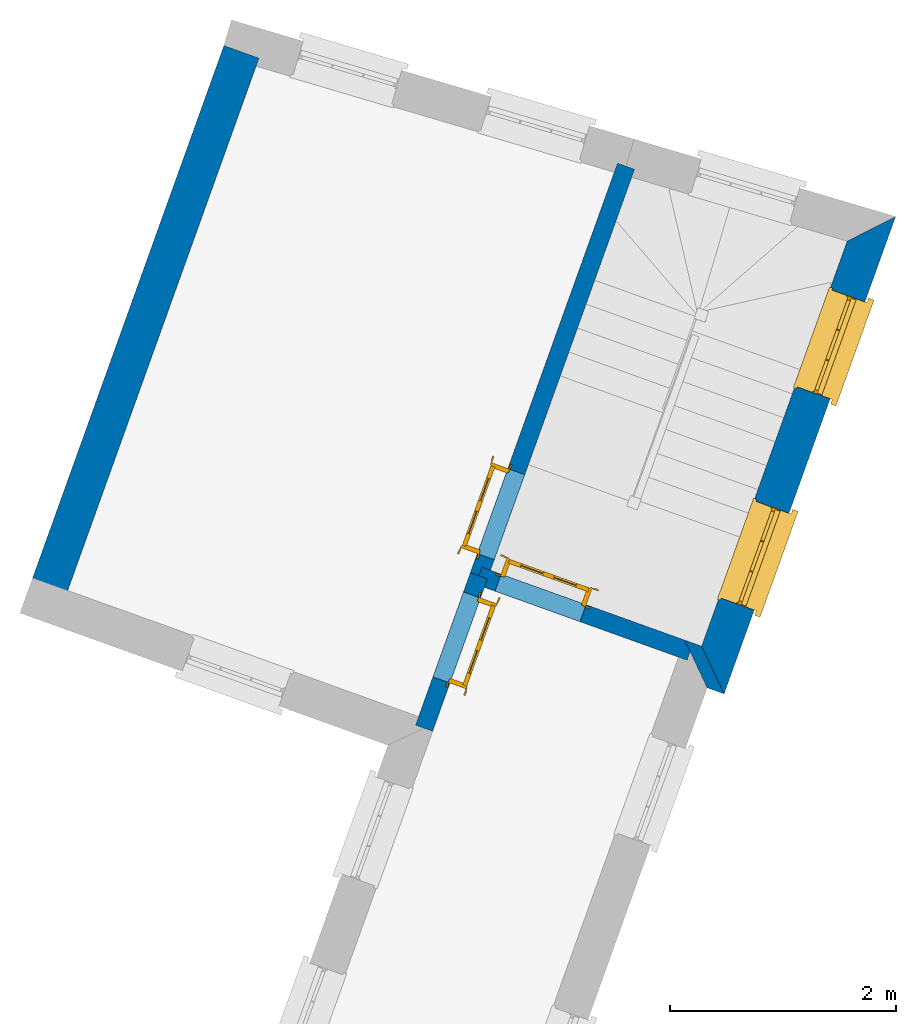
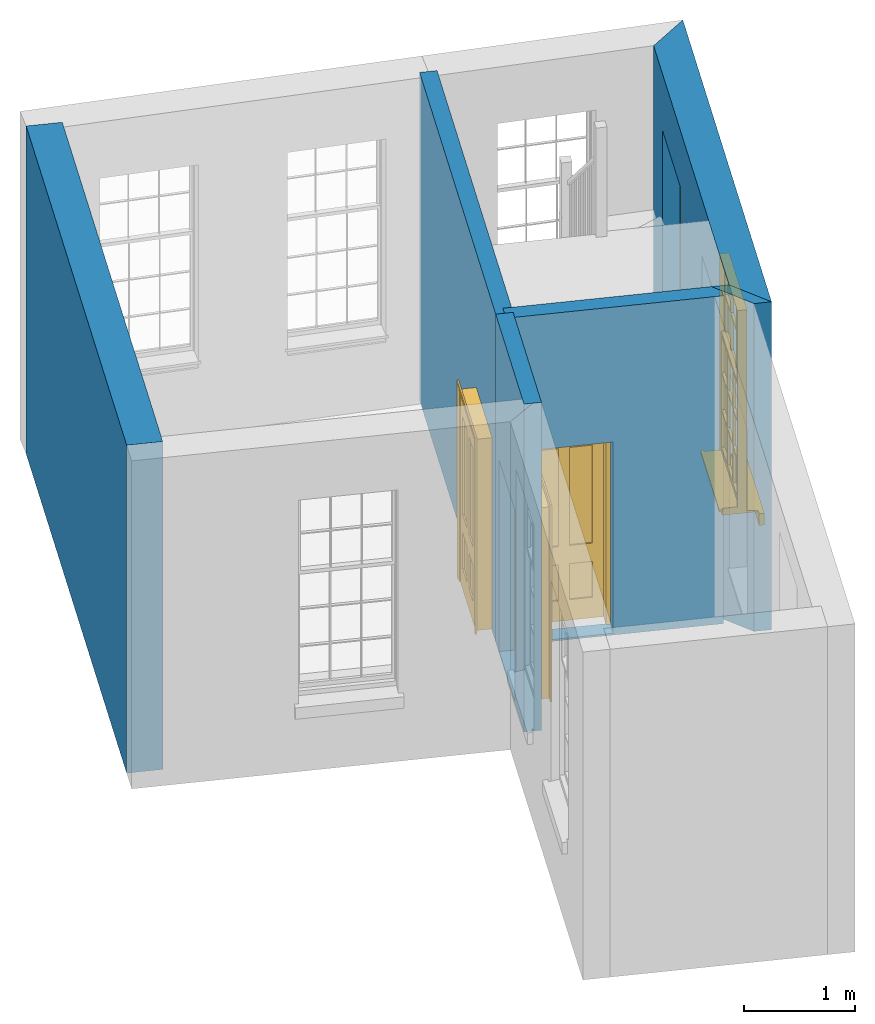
# One storey, part 2 of 3: 6 walls, 3 doors, 2 windows, 5 openings.
"""IFC4 building model written with IfcOpenShell, lengths in metres."""

from ifc_helpers import new_model, si_unit, frame, origin, origin_with_axes, place, context, subcontext, project, spatial, polyline, outline, extrude, faceted_brep, source, transform, mapped, material, layer, layer_set, layer_usage, type_object, type_shapes, element, fill, save


model = new_model("IFC4")

# Units and contexts
model_context = context("Model", 3, world=origin_with_axes())
body_context = subcontext(model_context, "Body", "Model", "MODEL_VIEW")
ifc_project = project(units=[si_unit("PLANEANGLEUNIT", "RADIAN"), si_unit("MASSUNIT", "GRAM", prefix="KILO"), si_unit("FORCEUNIT", "NEWTON", prefix="KILO"), si_unit("LENGTHUNIT", "METRE"), si_unit("AREAUNIT", "SQUARE_METRE"), si_unit("VOLUMEUNIT", "CUBIC_METRE")], contexts=[model_context, model_context])

# Sites, building, storey
site_1_placement = place(None, origin_with_axes())
site_1 = spatial("IfcSite", under=ifc_project, at=site_1_placement, Name="Tamar")
site_2_placement = place(site_1_placement, origin_with_axes())
site_2 = spatial("IfcSite", under=site_1, at=site_2_placement, Name="Site plot-23", CompositionType="ELEMENT")
building_placement = place(None, origin_with_axes())
building = spatial("IfcBuilding", under=site_2, at=building_placement, Name="Building plot-23", CompositionType="ELEMENT")
storey_placement = place(None, frame((0.0, 0.0, 29.6), z_axis=(0.0, 0.0, 1.0), x_axis=(1.0, 0.0, 0.0)))
storey = spatial("IfcBuildingStorey", under=building, at=storey_placement, Name="plot-23 1", CompositionType="ELEMENT", Elevation=29.6)

# Wall
ifc_material_1 = material(Name="Masonry")
ifc_layer_1 = layer(ifc_material_1, 0.33, ventilated=False)
ifc_layer_set_1 = layer_set([ifc_layer_1], Name="exterior_0.08_0.25")
ifc_layer_usage_1 = layer_usage(ifc_layer_set_1, "AXIS2", "POSITIVE", -0.25)
wall_type_1 = type_object("IfcWallType", Name="exterior_0.08_0.25", PredefinedType="SOLIDWALL", material=ifc_layer_set_1)
wall_1_placement = place(storey_placement, frame((266.177555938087, 277.829729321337, 0.0), z_axis=(0.0, 0.0, 1.0), x_axis=(0.941087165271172, -0.338164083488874, 0.0)))
element("IfcWall", 1, at=wall_1_placement, inside=storey, type_object=wall_type_1, material=ifc_layer_usage_1, Name="exterior", context=body_context, shape_type="SweptSolid", body=[
    extrude(outline(polyline([(-0.0800000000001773, 0.0799999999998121), (0.250000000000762, -0.250000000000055), (0.409135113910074, -0.250000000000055), (0.0791351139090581, 0.080000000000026), (-0.0800000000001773, 0.0799999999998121)])), origin_with_axes(), (0.0, 0.0, 1.0), 3.6),
])

# Wall, openings, windows
wall_2_placement = place(storey_placement, frame((266.327315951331, 277.775915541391, 0.0), z_axis=(0.0, 0.0, 1.0), x_axis=(0.338164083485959, 0.941087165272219, 0.0)))
wall_2 = element("IfcWall", 2, at=wall_2_placement, inside=storey, type_object=wall_type_1, material=ifc_layer_usage_1, Name="exterior", context=body_context, shape_type="SweptSolid", body=[
    extrude(outline(polyline([(0.0800000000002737, 0.0800000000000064), (-0.250000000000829, -0.249999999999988), (4.23925398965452, -0.249999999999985), (3.88979325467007, 0.0800000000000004), (0.0800000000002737, 0.0800000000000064)])), origin_with_axes(), (0.0, 0.0, 1.0), 3.6),
])
opening_1_placement = place(wall_2_placement, frame((0.538627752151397, 0.0, 0.75)))
opening_1 = element("IfcOpeningElement", 3, at=opening_1_placement, cuts=wall_2, Name="My Opening", ObjectType="Opening", context=body_context, shape_type="SweptSolid", body=[
    extrude(outline(polyline([(0.0, -0.270000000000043), (0.910000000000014, -0.270000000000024), (0.909999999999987, 1.09999999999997), (-2.67563748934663e-14, 1.09999999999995), (0.0, -0.270000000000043)])), origin_with_axes(), (0.0, 0.0, 1.0), 2.23),
])
opening_2_placement = place(wall_2_placement, frame((2.52588325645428, 0.0, 0.75)))
opening_2 = element("IfcOpeningElement", 4, at=opening_2_placement, cuts=wall_2, Name="My Opening", ObjectType="Opening", context=body_context, shape_type="SweptSolid", body=[
    extrude(outline(polyline([(0.0, -0.270000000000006), (0.910000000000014, -0.269999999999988), (0.909999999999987, 1.10000000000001), (-2.66453525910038e-14, 1.09999999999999), (0.0, -0.270000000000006)])), origin_with_axes(), (0.0, 0.0, 1.0), 2.23),
])
window_type = type_object("IfcWindowType", Name="sash_big_taller", PartitioningType="DOUBLE_PANEL_HORIZONTAL", PredefinedType="NOTDEFINED")
shared_shape_1 = source(origin(), body_context, "Body", "Brep", [
    faceted_brep([(0.033125, 0.145, 1.385209), (0.01, 0.145, 1.385209), (0.033125, 0.145, 1.786042), (0.876875, 0.145, 1.385209), (0.876875, 0.145, 1.786042), (0.9, 0.145, 1.385209), (0.876875, 0.145, 1.796042), (0.876875, 0.145, 2.196875), (0.9, 0.145, 2.22), (0.033125, 0.145, 2.196875), (0.033125, 0.145, 1.796042), (0.01, 0.145, 2.22), (0.876875, 0.115, 1.786042), (0.876875, 0.115, 1.385209), (0.9, 0.115, 1.347084), (0.033125, 0.115, 2.196875), (0.01, 0.115, 2.22), (0.033125, 0.115, 1.796042), (0.01, 0.115, 1.347084), (0.033125, 0.115, 1.385209), (0.033125, 0.115, 1.786042), (0.876875, 0.115, 2.196875), (0.876875, 0.115, 1.796042), (0.9, 0.115, 2.22), (0.033125, 0.145, 1.347084), (0.01, 0.145, 1.347084), (0.033125, 0.145, 0.94625), (0.876875, 0.145, 1.347084), (0.876875, 0.145, 0.94625), (0.9, 0.145, 1.347084), (0.876875, 0.145, 0.52625), (0.876875, 0.145, 0.125417), (0.9, 0.145, 0.077167), (0.033125, 0.145, 0.125417), (0.033125, 0.145, 0.52625), (0.01, 0.145, 0.077167), (-0.0425, 0.0, 0.01), (-0.0425, -0.05, 0.001667), (0.0, 0.0, 0.01), (0.9525, 0.0, 0.01), (0.91, 0.0, 0.01), (0.9525, -0.05, 0.001667), (-0.02, 0.33, 0.077167), (0.0, 0.33, 0.077167), (-0.02, 0.36, 0.077167), (0.0, 0.19, 0.077167), (0.01, 0.19, 0.077167), (0.91, 0.19, 0.077167), (0.91, 0.33, 0.077167), (0.9, 0.19, 0.077167), (0.93, 0.33, 0.077167), (0.93, 0.36, 0.077167), (0.01, 0.175, 1.385209), (0.9, 0.175, 1.385209), (0.876875, 0.175, 0.125417), (0.876875, 0.175, 0.52625), (0.9, 0.175, 0.077167), (0.876875, 0.175, 0.94625), (0.876875, 0.175, 1.347084), (0.033125, 0.175, 0.125417), (0.01, 0.175, 0.077167), (0.033125, 0.175, 0.52625), (0.033125, 0.175, 1.347084), (0.033125, 0.175, 0.94625), (-0.02, 0.33, 0.052167), (-0.02, 0.36, 0.052167), (0.93, 0.36, 0.052167), (0.93, 0.33, 0.052167), (0.91, 0.33, 0.052167), (0.0, 0.33, 0.052167), (0.91, 0.1, 0.026667), (0.0, 0.1, 0.026667), (-0.0425, -0.05, -0.123333), (0.9525, -0.05, -0.123333), (-0.0425, 0.0, -0.123333), (0.9525, 0.0, -0.123333), (0.01, 0.19, 2.22), (0.9, 0.19, 2.22), (0.0, 0.19, 2.23), (0.91, 0.19, 2.23), (0.01, 0.1, 0.077167), (0.9, 0.1, 0.077167), (0.592292, 0.145, 0.125417), (0.592292, 0.175, 0.125417), (0.317708, 0.175, 0.125417), (0.317708, 0.145, 0.125417), (0.592292, 0.145, 0.53625), (0.317708, 0.145, 0.53625), (0.317708, 0.145, 0.52625), (0.592292, 0.145, 0.52625), (0.592292, 0.175, 0.53625), (0.317708, 0.175, 0.53625), (0.592292, 0.115, 1.796042), (0.592292, 0.145, 1.796042), (0.317708, 0.145, 1.796042), (0.317708, 0.115, 1.796042), (0.317708, 0.115, 1.786042), (0.592292, 0.115, 1.786042), (0.317708, 0.145, 1.786042), (0.592292, 0.145, 1.786042), (0.602292, 0.115, 1.786042), (0.592292, 0.115, 1.385209), (0.602292, 0.115, 1.385209), (0.602292, 0.145, 1.385209), (0.592292, 0.145, 1.385209), (0.602292, 0.145, 1.786042), (0.876875, 0.145, 0.53625), (0.876875, 0.175, 0.53625), (0.602292, 0.175, 0.53625), (0.602292, 0.145, 0.53625), (0.317708, 0.175, 0.52625), (0.307708, 0.175, 0.125417), (0.307708, 0.175, 0.52625), (0.602292, 0.175, 0.52625), (0.602292, 0.175, 0.125417), (0.592292, 0.175, 0.52625), (0.307708, 0.175, 0.53625), (0.033125, 0.175, 0.53625), (0.317708, 0.175, 1.347084), (0.317708, 0.175, 0.94625), (0.307708, 0.175, 0.94625), (0.307708, 0.175, 1.347084), (0.602292, 0.175, 1.347084), (0.602292, 0.175, 0.94625), (0.592292, 0.175, 0.94625), (0.592292, 0.175, 1.347084), (0.307708, 0.145, 0.52625), (0.307708, 0.145, 0.125417), (0.307708, 0.145, 0.53625), (0.033125, 0.145, 0.53625), (0.307708, 0.145, 1.347084), (0.307708, 0.145, 0.94625), (0.592292, 0.145, 1.347084), (0.592292, 0.145, 0.94625), (0.317708, 0.145, 0.94625), (0.317708, 0.145, 1.347084), (0.602292, 0.145, 0.94625), (0.602292, 0.145, 1.347084), (0.602292, 0.145, 0.52625), (0.602292, 0.145, 0.125417), (0.307708, 0.115, 1.796042), (0.307708, 0.115, 1.786042), (0.307708, 0.115, 1.385209), (0.317708, 0.115, 1.385209), (0.317708, 0.115, 2.196875), (0.307708, 0.115, 2.196875), (0.602292, 0.115, 2.196875), (0.592292, 0.115, 2.196875), (0.602292, 0.115, 1.796042), (0.602292, 0.145, 1.796042), (0.307708, 0.145, 1.796042), (0.307708, 0.145, 2.196875), (0.317708, 0.145, 2.196875), (0.592292, 0.145, 2.196875), (0.602292, 0.145, 2.196875), (0.307708, 0.145, 1.786042), (0.317708, 0.145, 1.385209), (0.307708, 0.145, 1.385209), (0.876875, 0.175, 0.93625), (0.033125, 0.175, 0.93625), (0.033125, 0.145, 0.93625), (0.876875, 0.145, 0.93625), (0.91, 0.1, 2.23), (0.9, 0.1, 2.22), (0.01, 0.1, 2.22), (0.0, 0.1, 2.23), (0.91, 0.0, 0.0), (0.0, 0.0, 0.0), (0.91, 0.33, 0.0), (0.0, 0.33, 0.0), (0.317708, 0.145, 0.93625), (0.592292, 0.145, 0.93625), (0.317708, 0.175, 0.93625), (0.307708, 0.175, 0.93625), (0.602292, 0.175, 0.93625), (0.592292, 0.175, 0.93625), (0.307708, 0.145, 0.93625), (0.602292, 0.145, 0.93625)], [[[0, 1, 2]], [[3, 4, 5]], [[6, 7, 8]], [[9, 10, 11]], [[12, 13, 14]], [[15, 16, 17]], [[18, 19, 20]], [[21, 22, 23]], [[24, 25, 26]], [[27, 28, 29]], [[30, 31, 32]], [[33, 34, 35]], [[14, 27, 29]], [[25, 24, 18]], [[36, 37, 38]], [[39, 40, 41]], [[42, 43, 44]], [[45, 46, 43]], [[47, 48, 49]], [[50, 51, 48]], [[1, 0, 52]], [[5, 53, 3]], [[54, 55, 56]], [[57, 58, 53]], [[59, 60, 61]], [[62, 63, 52]], [[48, 43, 46, 49]], [[51, 44, 43, 48]], [[64, 42, 44, 65]], [[65, 44, 51, 66]], [[66, 51, 50, 67]], [[65, 66, 68, 69]], [[60, 56, 49, 46]], [[70, 71, 38, 40]], [[37, 41, 40, 38]], [[37, 72, 73, 41]], [[74, 75, 73, 72]], [[8, 11, 76, 77]], [[76, 78, 79, 77]], [[32, 35, 80, 81]], [[81, 80, 71, 70]], [[82, 83, 84, 85]], [[86, 87, 88, 89]], [[86, 90, 91, 87]], [[92, 93, 94, 95]], [[92, 95, 96, 97]], [[96, 98, 99, 97]], [[100, 97, 101, 102]], [[103, 104, 99, 105]], [[97, 99, 104, 101]], [[102, 103, 105, 100]], [[106, 107, 108, 109]], [[110, 84, 111, 112]], [[113, 114, 83, 115]], [[116, 112, 61, 117]], [[90, 115, 110, 91]], [[118, 119, 120, 121]], [[122, 123, 124, 125]], [[113, 108, 107, 55]], [[126, 112, 111, 127]], [[34, 61, 112, 126]], [[89, 115, 83, 82]], [[88, 110, 115, 89]], [[85, 84, 110, 88]], [[128, 116, 117, 129]], [[130, 121, 120, 131]], [[132, 125, 124, 133]], [[134, 119, 118, 135]], [[136, 123, 122, 137]], [[138, 113, 55, 30]], [[139, 114, 113, 138]], [[138, 30, 106, 109]], [[88, 126, 127, 85]], [[138, 89, 82, 139]], [[137, 132, 133, 136]], [[128, 129, 34, 126]], [[135, 130, 131, 134]], [[140, 17, 20, 141]], [[96, 141, 142, 143]], [[144, 145, 140, 95]], [[146, 147, 92, 148]], [[100, 12, 22, 148]], [[149, 6, 4, 105]], [[94, 150, 151, 152]], [[149, 93, 153, 154]], [[99, 98, 94, 93]], [[155, 2, 10, 150]], [[156, 157, 155, 98]], [[141, 155, 157, 142]], [[20, 2, 155, 141]], [[143, 156, 98, 96]], [[140, 150, 10, 17]], [[145, 151, 150, 140]], [[147, 153, 93, 92]], [[95, 94, 152, 144]], [[22, 6, 149, 148]], [[148, 149, 154, 146]], [[100, 105, 4, 12]], [[109, 86, 89, 138]], [[108, 113, 115, 90]], [[91, 110, 112, 116]], [[87, 128, 126, 88]], [[97, 100, 148, 92]], [[141, 96, 95, 140]], [[98, 155, 150, 94]], [[105, 99, 93, 149]], [[143, 101, 104, 156]], [[135, 118, 125, 132]], [[144, 152, 153, 147]], [[127, 111, 59, 33]], [[15, 9, 151, 145]], [[146, 154, 7, 21]], [[31, 54, 114, 139]], [[36, 74, 72, 37]], [[39, 41, 73, 75]], [[18, 14, 101, 143]], [[23, 16, 144, 147]], [[83, 56, 60, 84]], [[52, 53, 125, 118]], [[53, 52, 156, 104]], [[11, 8, 153, 152]], [[14, 18, 135, 132]], [[2, 1, 11, 10]], [[8, 5, 4, 6]], [[57, 53, 56, 158]], [[60, 52, 63, 159]], [[26, 25, 35, 160]], [[32, 29, 28, 161]], [[14, 23, 22, 12]], [[18, 20, 17, 16]], [[19, 0, 2, 20]], [[17, 10, 9, 15]], [[12, 4, 3, 13]], [[21, 7, 6, 22]], [[27, 58, 57, 28]], [[30, 55, 54, 31]], [[33, 59, 61, 34]], [[26, 63, 62, 24]], [[5, 8, 77, 53]], [[76, 11, 1, 52]], [[46, 45, 78, 76]], [[49, 77, 79, 47]], [[70, 162, 163, 81]], [[71, 80, 164, 165]], [[19, 142, 157, 0]], [[102, 13, 3, 103]], [[121, 130, 24, 62]], [[29, 32, 81, 14]], [[80, 35, 25, 18]], [[60, 46, 76, 52]], [[77, 49, 56, 53]], [[23, 14, 81, 163]], [[16, 164, 80, 18]], [[35, 85, 127]], [[127, 33, 35]], [[139, 82, 32]], [[32, 31, 139]], [[32, 82, 85, 35]], [[102, 101, 14]], [[14, 13, 102]], [[18, 143, 142]], [[142, 19, 18]], [[146, 21, 23]], [[23, 147, 146]], [[16, 15, 145]], [[145, 144, 16]], [[11, 152, 151]], [[151, 9, 11]], [[154, 153, 8]], [[8, 7, 154]], [[23, 163, 164, 16]], [[162, 165, 164, 163]], [[52, 118, 121]], [[121, 62, 52]], [[125, 53, 122]], [[58, 122, 53]], [[27, 137, 122, 58]], [[56, 83, 114]], [[114, 54, 56]], [[111, 84, 60]], [[60, 59, 111]], [[137, 27, 14]], [[14, 132, 137]], [[130, 135, 18]], [[18, 24, 130]], [[157, 156, 52]], [[52, 0, 157]], [[103, 3, 53]], [[53, 104, 103]], [[79, 78, 165, 162]], [[78, 45, 71, 165]], [[162, 70, 47, 79]], [[166, 75, 74, 167]], [[68, 66, 67]], [[48, 68, 67, 50]], [[69, 64, 65]], [[42, 64, 69, 43]], [[69, 68, 168, 169]], [[70, 68, 48, 47]], [[166, 168, 68, 70]], [[43, 69, 71, 45]], [[69, 169, 167, 71]], [[168, 166, 167, 169]], [[38, 167, 74, 36]], [[71, 167, 38]], [[39, 75, 166, 40]], [[40, 166, 70]], [[133, 134, 170, 171]], [[133, 124, 119, 134]], [[28, 57, 123, 136]], [[172, 91, 116, 173]], [[174, 108, 90, 175]], [[120, 173, 159, 63]], [[124, 175, 172, 119]], [[174, 123, 57, 158]], [[176, 173, 116, 128]], [[160, 159, 173, 176]], [[171, 175, 90, 86]], [[170, 172, 175, 171]], [[87, 91, 172, 170]], [[131, 120, 63, 26]], [[177, 174, 158, 161]], [[109, 108, 174, 177]], [[177, 161, 28, 136]], [[170, 176, 128, 87]], [[177, 171, 86, 109]], [[131, 26, 160, 176]], [[136, 133, 171, 177]], [[123, 174, 175, 124]], [[119, 172, 173, 120]], [[134, 131, 176, 170]], [[129, 117, 159, 160]], [[161, 158, 107, 106]], [[35, 34, 129]], [[35, 129, 160]], [[32, 106, 30]], [[32, 161, 106]], [[56, 55, 107]], [[56, 107, 158]], [[60, 117, 61]], [[60, 159, 117]]]),
])
type_shapes(window_type, [shared_shape_1])
window_1_placement = place(storey_placement, frame((266.763554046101, 278.191506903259, 0.75), z_axis=(0.0, 0.0, 1.0), x_axis=(0.30772931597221, 0.856389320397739, 0.0)))
window_1 = element("IfcWindow", 5, at=window_1_placement, inside=storey, type_object=window_type, Name="circulation outside window", OverallHeight=2.23, OverallWidth=0.91, context=body_context, shape_type="MappedRepresentation", body=[
    mapped(shared_shape_1, transform((0.0, 0.0, 0.0), scale=1.0)),
])
fill(opening_1, window_1)
window_2_placement = place(storey_placement, frame((267.435572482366, 280.061687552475, 0.75), z_axis=(0.0, 0.0, 1.0), x_axis=(0.30772931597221, 0.856389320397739, 0.0)))
window_2 = element("IfcWindow", 6, at=window_2_placement, inside=storey, type_object=window_type, Name="circulation outside window", OverallHeight=2.23, OverallWidth=0.91, context=body_context, shape_type="MappedRepresentation", body=[
    mapped(shared_shape_1, transform((0.0, 0.0, 0.0), scale=1.0)),
])
fill(opening_2, window_2)

# Wall
ifc_material_2 = material(Name="Masonry")
ifc_layer_2 = layer(ifc_material_2, 0.33, ventilated=False)
ifc_layer_set_2 = layer_set([ifc_layer_2], Name="party_0.08_0.25")
ifc_layer_usage_2 = layer_usage(ifc_layer_set_2, "AXIS2", "POSITIVE", -0.25)
wall_type_2 = type_object("IfcWallType", Name="party_0.08_0.25", PredefinedType="SOLIDWALL", material=ifc_layer_set_2)
wall_3_placement = place(storey_placement, frame((262.286455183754, 283.10970929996, 0.0), z_axis=(0.0, 0.0, 1.0), x_axis=(-0.338164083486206, -0.941087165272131, 0.0)))
element("IfcWall", 7, at=wall_3_placement, inside=storey, type_object=wall_type_2, material=ifc_layer_usage_2, Name="party", context=body_context, shape_type="SweptSolid", body=[
    extrude(outline(polyline([(-9.25175132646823e-15, 0.0799999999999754), (1.28938951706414e-14, -0.250000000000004), (5.08654930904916, -0.250000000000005), (5.08654930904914, 0.0799999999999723), (-9.25175132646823e-15, 0.0799999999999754)])), origin_with_axes(), (0.0, 0.0, 1.0), 3.6),
])

# Wall, opening, door
ifc_material_3 = material(Name="Masonry")
ifc_layer_3 = layer(ifc_material_3, 0.16, ventilated=False)
ifc_layer_set_3 = layer_set([ifc_layer_3], Name="interior_0.08_0.08")
ifc_layer_usage_3 = layer_usage(ifc_layer_set_3, "AXIS2", "POSITIVE", -0.08)
wall_type_3 = type_object("IfcWallType", Name="interior_0.08_0.08", PredefinedType="SOLIDWALL", material=ifc_layer_set_3)
wall_4_placement = place(storey_placement, frame((264.307774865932, 278.501604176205, 0.0), z_axis=(0.0, 0.0, 1.0), x_axis=(0.941087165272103, -0.338164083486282, 0.0)))
wall_4 = element("IfcWall", 8, at=wall_4_placement, inside=storey, type_object=wall_type_3, material=ifc_layer_usage_3, Name="interior", context=body_context, shape_type="SweptSolid", body=[
    extrude(outline(polyline([(-1.58046772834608e-14, 0.0799999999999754), (1.57593529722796e-14, -0.0799999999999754), (1.98683091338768, -0.0799999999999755), (1.98683091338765, 0.0799999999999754), (-1.58046772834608e-14, 0.0799999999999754)])), origin_with_axes(), (0.0, 0.0, 1.0), 3.6),
])
opening_3_placement = place(wall_4_placement, frame((0.179999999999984, 0.0, 0.0199999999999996)))
opening_3 = element("IfcOpeningElement", 9, at=opening_3_placement, cuts=wall_4, Name="My Opening", ObjectType="Opening", context=body_context, shape_type="SweptSolid", body=[
    extrude(outline(polyline([(0.0, -0.0999999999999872), (0.799999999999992, -0.0999999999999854), (0.79999999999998, 1.10000000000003), (-1.23512311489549e-14, 1.10000000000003), (0.0, -0.0999999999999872)])), origin_with_axes(), (0.0, 0.0, 1.0), 2.1),
])
door_type = type_object("IfcDoorType", Name="door_inside", OperationType="SINGLE_SWING_LEFT", PredefinedType="NOTDEFINED")
shared_shape_2 = source(origin(), body_context, "Body", "Brep", [
    faceted_brep([(0.773, 0.33, 1.895), (0.66, 0.33, 1.895), (0.66, 0.33, 2.073), (0.773, 0.33, 2.073), (0.773, 0.33, 0.82), (0.66, 0.33, 0.82), (0.45, 0.33, 1.895), (0.45, 0.33, 2.073), (0.773, 0.33, 0.62), (0.66, 0.33, 0.62), (0.66, 0.315, 0.82), (0.66, 0.315, 1.895), (0.45, 0.315, 1.895), (0.35, 0.33, 1.895), (0.35, 0.33, 2.073), (0.773, 0.33, 0.225), (0.66, 0.33, 0.225), (0.45, 0.33, 0.62), (0.45, 0.33, 0.82), (0.45, 0.315, 0.82), (0.35, 0.33, 0.82), (0.14, 0.33, 2.073), (0.14, 0.33, 1.895), (0.773, 0.33, 0.0), (0.66, 0.33, 0.0), (0.66, 0.315, 0.225), (0.66, 0.315, 0.62), (0.45, 0.315, 0.62), (0.35, 0.33, 0.62), (0.35, 0.315, 0.82), (0.35, 0.315, 1.895), (0.14, 0.315, 1.895), (0.027, 0.33, 2.073), (0.027, 0.33, 1.895), (0.773, 0.292, 0.0), (0.66, 0.292, 0.0), (0.45, 0.33, 0.0), (0.45, 0.33, 0.225), (0.45, 0.315, 0.225), (0.35, 0.33, 0.225), (0.14, 0.33, 0.82), (0.14, 0.33, 0.62), (0.14, 0.315, 0.82), (0.027, 0.33, 0.82), (0.773, 0.292, 0.225), (0.66, 0.292, 0.225), (0.45, 0.292, 0.0), (0.35, 0.33, 0.0), (0.35, 0.315, 0.225), (0.35, 0.315, 0.62), (0.14, 0.315, 0.62), (0.027, 0.33, 0.62), (0.773, 0.292, 0.62), (0.66, 0.292, 0.62), (0.45, 0.292, 0.225), (0.35, 0.292, 0.0), (0.14, 0.33, 0.225), (0.14, 0.33, 0.0), (0.14, 0.315, 0.225), (0.027, 0.33, 0.225), (0.773, 0.292, 0.82), (0.66, 0.292, 0.82), (0.66, 0.307, 0.62), (0.66, 0.307, 0.225), (0.45, 0.307, 0.225), (0.35, 0.292, 0.225), (0.14, 0.292, 0.0), (0.027, 0.33, 0.0), (0.773, 0.292, 1.895), (0.66, 0.292, 1.895), (0.45, 0.292, 0.62), (0.45, 0.292, 0.82), (0.45, 0.307, 0.62), (0.35, 0.292, 0.62), (0.14, 0.292, 0.225), (0.027, 0.292, 0.0), (0.773, 0.292, 2.073), (0.66, 0.292, 2.073), (0.66, 0.307, 1.895), (0.66, 0.307, 0.82), (0.45, 0.307, 0.82), (0.35, 0.292, 0.82), (0.35, 0.307, 0.62), (0.35, 0.307, 0.225), (0.14, 0.307, 0.225), (0.027, 0.292, 0.225), (0.45, 0.292, 1.895), (0.45, 0.292, 2.073), (0.45, 0.307, 1.895), (0.35, 0.292, 1.895), (0.14, 0.292, 0.82), (0.14, 0.292, 0.62), (0.14, 0.307, 0.62), (0.027, 0.292, 0.62), (0.35, 0.292, 2.073), (0.35, 0.307, 1.895), (0.35, 0.307, 0.82), (0.14, 0.307, 0.82), (0.027, 0.292, 0.82), (0.14, 0.292, 2.073), (0.14, 0.292, 1.895), (0.14, 0.307, 1.895), (0.027, 0.292, 1.895), (0.027, 0.292, 2.073), (0.02, 0.335, 0.0), (0.005, 0.34, 0.0), (0.005, 0.34, 2.095), (0.02, 0.335, 2.08), (0.02, 0.33, 0.0), (0.0, 0.335, 0.0), (0.0, 0.335, 2.1), (0.795, 0.34, 2.095), (0.78, 0.335, 2.08), (0.02, 0.33, 2.08), (0.0, 0.33, 0.0), (-0.032, 0.345, 0.0), (-0.032, 0.345, 2.132), (0.8, 0.335, 2.1), (0.795, 0.34, 0.0), (0.78, 0.335, 0.0), (0.78, 0.33, 2.08), (0.04, 0.29, 0.0), (0.025, 0.29, 0.0), (0.025, 0.29, 2.075), (0.04, 0.29, 2.06), (-0.04, 0.34, 0.0), (-0.04, 0.34, 2.14), (0.832, 0.345, 2.132), (0.8, 0.335, 0.0), (0.78, 0.33, 0.0), (0.8, 0.33, 0.0), (0.86, 0.33, 0.0), (0.86, 0.33, 2.16), (0.8, 0.33, 2.1), (-0.06, 0.33, 2.16), (0.0, 0.33, 2.1), (-0.06, 0.33, 0.0), (-0.04, 0.345, 0.0), (-0.04, 0.345, 2.14), (0.84, 0.34, 2.14), (0.832, 0.345, 0.0), (0.84, 0.34, 0.0), (0.86, 0.345, 0.0), (0.86, 0.345, 2.16), (-0.06, 0.345, 2.16), (-0.06, 0.345, 0.0), (0.84, 0.345, 0.0), (0.84, 0.345, 2.14), (-0.025, 0.155, 0.0), (-0.025, 0.16, 0.0), (-0.025, 0.16, 2.125), (-0.025, 0.155, 2.125), (-0.017, 0.155, 0.0), (-0.017, 0.155, 2.117), (0.825, 0.16, 2.125), (0.825, 0.155, 2.125), (0.825, 0.155, 0.0), (0.845, 0.155, 0.0), (-0.045, 0.155, 2.145), (-0.045, 0.155, 0.0), (0.845, 0.155, 2.145), (0.015, 0.165, 0.0), (0.015, 0.165, 2.085), (0.817, 0.155, 2.117), (0.825, 0.16, 0.0), (0.845, 0.17, 0.0), (0.845, 0.17, 2.145), (-0.045, 0.17, 2.145), (-0.045, 0.17, 0.0), (0.02, 0.16, 0.0), (0.02, 0.16, 2.08), (0.785, 0.165, 2.085), (0.817, 0.155, 0.0), (0.8, 0.17, 0.0), (0.8, 0.17, 2.1), (0.0, 0.17, 2.1), (0.0, 0.17, 0.0), (0.035, 0.165, 0.0), (0.035, 0.165, 2.065), (0.78, 0.16, 2.08), (0.785, 0.165, 0.0), (0.775, 0.29, 2.075), (0.76, 0.29, 2.06), (0.035, 0.17, 2.065), (0.035, 0.17, 0.0), (0.765, 0.165, 2.065), (0.78, 0.16, 0.0), (0.765, 0.17, 0.0), (0.765, 0.17, 2.065), (0.765, 0.165, 0.0), (0.04, 0.17, 2.06), (0.04, 0.17, 0.0), (0.76, 0.17, 2.06), (0.76, 0.17, 0.0), (0.76, 0.29, 0.0), (0.775, 0.29, 0.0), (0.025, 0.33, 0.0), (0.025, 0.33, 2.075), (0.775, 0.33, 0.0), (0.775, 0.33, 2.075)], [[[0, 1, 2, 3]], [[1, 0, 4, 5]], [[1, 6, 7, 2]], [[8, 9, 5, 4]], [[1, 5, 10, 11]], [[6, 1, 11, 12]], [[6, 13, 14, 7]], [[15, 16, 9, 8]], [[9, 17, 18, 5]], [[5, 18, 19, 10]], [[10, 19, 12, 11]], [[18, 6, 12, 19]], [[18, 20, 13, 6]], [[21, 14, 13, 22]], [[23, 24, 16, 15]], [[9, 16, 25, 26]], [[17, 9, 26, 27]], [[17, 28, 20, 18]], [[13, 20, 29, 30]], [[22, 13, 30, 31]], [[32, 21, 22, 33]], [[34, 35, 24, 23]], [[24, 36, 37, 16]], [[16, 37, 38, 25]], [[25, 38, 27, 26]], [[37, 17, 27, 38]], [[37, 39, 28, 17]], [[40, 20, 28, 41]], [[20, 40, 42, 29]], [[31, 30, 29, 42]], [[40, 22, 31, 42]], [[33, 22, 40, 43]], [[35, 34, 44, 45]], [[35, 46, 36, 24]], [[36, 47, 39, 37]], [[28, 39, 48, 49]], [[41, 28, 49, 50]], [[43, 40, 41, 51]], [[45, 44, 52, 53]], [[46, 35, 45, 54]], [[46, 55, 47, 36]], [[56, 39, 47, 57]], [[39, 56, 58, 48]], [[50, 49, 48, 58]], [[56, 41, 50, 58]], [[51, 41, 56, 59]], [[53, 52, 60, 61]], [[45, 53, 62, 63]], [[54, 45, 63, 64]], [[55, 46, 54, 65]], [[55, 66, 57, 47]], [[59, 56, 57, 67]], [[61, 60, 68, 69]], [[70, 53, 61, 71]], [[53, 70, 72, 62]], [[72, 64, 63, 62]], [[70, 54, 64, 72]], [[65, 54, 70, 73]], [[65, 74, 66, 55]], [[67, 57, 66, 75]], [[69, 68, 76, 77]], [[61, 69, 78, 79]], [[71, 61, 79, 80]], [[73, 70, 71, 81]], [[65, 73, 82, 83]], [[74, 65, 83, 84]], [[74, 85, 75, 66]], [[86, 69, 77, 87]], [[69, 86, 88, 78]], [[88, 80, 79, 78]], [[86, 71, 80, 88]], [[81, 71, 86, 89]], [[73, 81, 90, 91]], [[73, 91, 92, 82]], [[83, 82, 92, 84]], [[91, 74, 84, 92]], [[91, 93, 85, 74]], [[89, 86, 87, 94]], [[81, 89, 95, 96]], [[90, 81, 96, 97]], [[90, 98, 93, 91]], [[94, 99, 100, 89]], [[89, 100, 101, 95]], [[101, 97, 96, 95]], [[100, 90, 97, 101]], [[100, 102, 98, 90]], [[99, 103, 102, 100]], [[32, 103, 99, 21]], [[102, 103, 32, 33]], [[98, 102, 33, 43]], [[21, 99, 94, 14]], [[94, 87, 7, 14]], [[7, 87, 77, 2]], [[76, 3, 2, 77]], [[43, 51, 93, 98]], [[51, 59, 85, 93]], [[67, 75, 85, 59]], [[34, 23, 15, 44]], [[44, 15, 8, 52]], [[52, 8, 4, 60]], [[0, 68, 60, 4]], [[0, 3, 76, 68]], [[104, 105, 106, 107]], [[104, 108, 109, 105]], [[105, 109, 110, 106]], [[107, 106, 111, 112]], [[107, 113, 108, 104]], [[114, 109, 108]], [[109, 115, 116, 110]], [[106, 110, 117, 111]], [[112, 111, 118, 119]], [[113, 107, 112, 120]], [[121, 122, 123, 124]], [[115, 109, 114, 125]], [[115, 125, 126, 116]], [[110, 116, 127, 117]], [[111, 117, 128, 118]], [[118, 128, 129, 119]], [[120, 112, 119, 129]], [[130, 129, 128]], [[130, 131, 132, 133]], [[133, 132, 134, 135]], [[135, 134, 136, 114]], [[136, 125, 114]], [[125, 137, 138, 126]], [[116, 126, 139, 127]], [[117, 127, 140, 128]], [[141, 130, 128, 140]], [[131, 130, 141]], [[131, 142, 143, 132]], [[132, 143, 144, 134]], [[134, 144, 145, 136]], [[137, 125, 136, 145]], [[143, 142, 146]], [[143, 146, 147]], [[137, 145, 144]], [[143, 147, 138]], [[138, 137, 144]], [[143, 138, 144]], [[126, 138, 147, 139]], [[127, 139, 141, 140]], [[142, 131, 141, 146]], [[139, 147, 146, 141]], [[148, 149, 150, 151]], [[149, 152, 153, 150]], [[151, 150, 154, 155]], [[155, 156, 157]], [[158, 159, 148]], [[158, 148, 151]], [[155, 157, 160]], [[158, 151, 155]], [[155, 160, 158]], [[152, 161, 162, 153]], [[150, 153, 163, 154]], [[155, 154, 164, 156]], [[156, 164, 165, 157]], [[157, 165, 166, 160]], [[160, 166, 167, 158]], [[158, 167, 168, 159]], [[161, 169, 170, 162]], [[153, 162, 171, 163]], [[154, 163, 172, 164]], [[165, 164, 173]], [[165, 173, 174, 166]], [[166, 174, 175, 167]], [[167, 175, 176, 168]], [[169, 177, 178, 170]], [[162, 170, 179, 171]], [[163, 171, 180, 172]], [[172, 180, 173, 164]], [[124, 123, 181, 182]], [[183, 178, 177, 184]], [[170, 178, 185, 179]], [[171, 179, 186, 180]], [[187, 173, 180]], [[185, 188, 187, 189]], [[188, 185, 178, 183]], [[179, 185, 189, 186]], [[189, 187, 180, 186]], [[190, 183, 184, 191]], [[192, 188, 183, 190]], [[191, 184, 122, 121]], [[124, 190, 191, 121]], [[193, 187, 188, 192]], [[182, 192, 190, 124]], [[184, 176, 122]], [[194, 195, 187, 193]], [[192, 182, 194, 193]], [[161, 176, 184]], [[114, 108, 122, 176]], [[173, 187, 195]], [[152, 149, 176, 161]], [[169, 161, 184, 177]], [[196, 122, 108]], [[176, 175, 135, 114]], [[173, 195, 129, 130]], [[176, 149, 168]], [[123, 122, 196, 197]], [[196, 108, 113, 197]], [[175, 174, 133, 135]], [[198, 129, 195]], [[133, 174, 173, 130]], [[159, 168, 149, 148]], [[181, 123, 197, 199]], [[197, 113, 120, 199]], [[199, 120, 129, 198]], [[195, 181, 199, 198]], [[195, 194, 182, 181]]]),
])
type_shapes(door_type, [shared_shape_2])
door_1_placement = place(storey_placement, frame((264.443354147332, 278.34662592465, 0.0199999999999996), z_axis=(0.0, 0.0, 1.0), x_axis=(0.752869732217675, -0.270531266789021, 0.0)))
door_1 = element("IfcDoor", 10, at=door_1_placement, inside=storey, type_object=door_type, Name="kitchen inside door", OverallHeight=2.1, OverallWidth=0.8, context=body_context, shape_type="MappedRepresentation", body=[
    mapped(shared_shape_2, transform((0.0, 0.0, 0.0), scale=1.0)),
])
fill(opening_3, door_1)

wall_5_placement = place(storey_placement, frame((264.307774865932, 278.501604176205, 0.0), z_axis=(0.0, 0.0, 1.0), x_axis=(0.338164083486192, 0.941087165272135, 0.0)))
wall_5 = element("IfcWall", 11, at=wall_5_placement, inside=storey, type_object=wall_type_3, material=ifc_layer_usage_3, Name="interior", context=body_context, shape_type="SweptSolid", body=[
    extrude(outline(polyline([(-8.18410644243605e-15, 0.0799999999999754), (8.19390361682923e-15, -0.0799999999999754), (3.85148296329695, -0.0799999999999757), (3.85148296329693, 0.0799999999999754), (-8.18410644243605e-15, 0.0799999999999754)])), origin_with_axes(), (0.0, 0.0, 1.0), 3.6),
])
opening_4_placement = place(wall_5_placement, frame((0.179999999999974, 0.0, 0.0199999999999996)))
opening_4 = element("IfcOpeningElement", 12, at=opening_4_placement, cuts=wall_5, Name="My Opening", ObjectType="Opening", context=body_context, shape_type="SweptSolid", body=[
    extrude(outline(polyline([(0.0, -0.100000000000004), (0.800000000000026, -0.100000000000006), (0.800000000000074, 1.09999999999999), (4.86832796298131e-14, 1.09999999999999), (0.0, -0.100000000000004)])), origin_with_axes(), (0.0, 0.0, 1.0), 2.1),
])
door_2_placement = place(storey_placement, frame((264.462753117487, 278.637183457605, 0.0199999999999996), z_axis=(0.0, 0.0, 1.0), x_axis=(0.270531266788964, 0.752869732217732, 0.0)))
door_2 = element("IfcDoor", 13, at=door_2_placement, inside=storey, type_object=door_type, Name="living inside door", OverallHeight=2.1, OverallWidth=0.8, context=body_context, shape_type="MappedRepresentation", body=[
    mapped(shared_shape_2, transform((0.0, 0.0, 0.0), scale=1.0)),
])
fill(opening_4, door_2)

wall_6_placement = place(storey_placement, frame((264.307774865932, 278.501604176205, 0.0), z_axis=(0.0, 0.0, 1.0), x_axis=(-0.338164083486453, -0.941087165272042, 0.0)))
wall_6 = element("IfcWall", 14, at=wall_6_placement, inside=storey, type_object=wall_type_3, material=ifc_layer_usage_3, Name="interior", context=body_context, shape_type="SweptSolid", body=[
    extrude(outline(polyline([(2.3148997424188e-14, 0.0799999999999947), (-2.31943217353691e-14, -0.0799999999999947), (1.43345843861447, -0.0799999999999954), (1.43345843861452, 0.0799999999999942), (2.3148997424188e-14, 0.0799999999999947)])), origin_with_axes(), (0.0, 0.0, 1.0), 3.6),
])
opening_5_placement = place(wall_6_placement, frame((0.180000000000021, 0.0, 0.0199999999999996)))
opening_5 = element("IfcOpeningElement", 15, at=opening_5_placement, cuts=wall_6, Name="My Opening", ObjectType="Opening", context=body_context, shape_type="SweptSolid", body=[
    extrude(outline(polyline([(0.0, -0.100000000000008), (0.799999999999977, -0.0999999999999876), (0.799999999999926, 1.10000000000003), (-5.00988139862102e-14, 1.10000000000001), (0.0, -0.100000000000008)])), origin_with_axes(), (0.0, 0.0, 1.0), 2.1),
])
door_3_placement = place(storey_placement, frame((264.152796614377, 278.366024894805, 0.0199999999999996), z_axis=(0.0, 0.0, 1.0), x_axis=(-0.270531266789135, -0.752869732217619, 0.0)))
door_3 = element("IfcDoor", 16, at=door_3_placement, inside=storey, type_object=door_type, Name="kitchen living inside door", OverallHeight=2.1, OverallWidth=0.8, context=body_context, shape_type="MappedRepresentation", body=[
    mapped(shared_shape_2, transform((0.0, 0.0, 0.0), scale=1.0)),
])
fill(opening_5, door_3)

save(model, "model.ifc")
